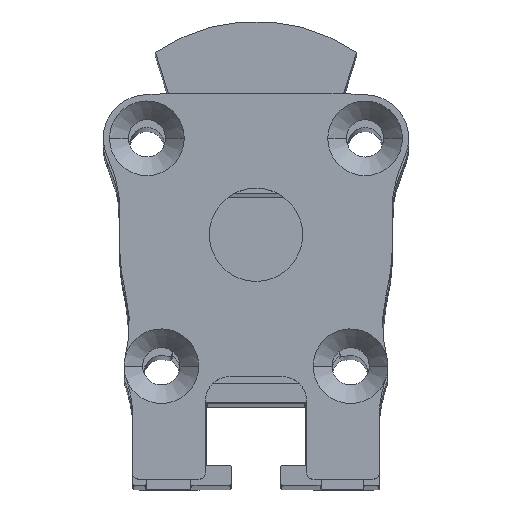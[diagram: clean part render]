
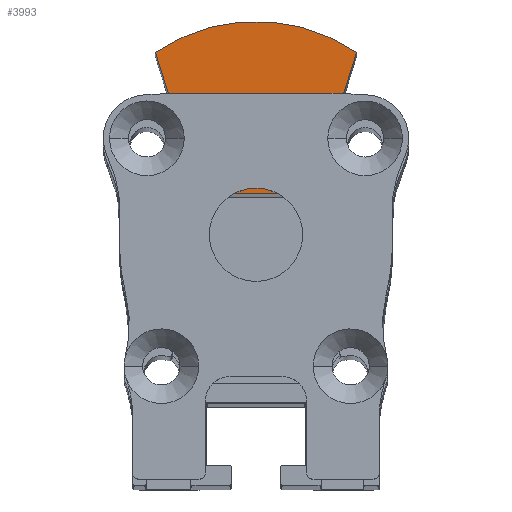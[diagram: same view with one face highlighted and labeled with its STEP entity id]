
A CAD part, top view. The second image highlights one B-rep face of the part: STEP entity #3993.
In plain terms, the highlighted planar face has unit normal (0, 0, 1).
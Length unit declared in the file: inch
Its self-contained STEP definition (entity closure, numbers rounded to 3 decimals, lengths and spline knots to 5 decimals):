
#3993=ADVANCED_FACE('',(#7809),#7810,.T.);
#4001=EDGE_CURVE('',#7813,#7819,#7822,.T.);
#4007=EDGE_CURVE('',#7827,#7819,#7830,.F.);
#4029=EDGE_CURVE('',#7861,#7862,#7863,.F.);
#4035=EDGE_CURVE('',#7869,#7870,#7871,.F.);
#4041=EDGE_CURVE('',#7870,#7861,#7877,.F.);
#4043=EDGE_CURVE('',#7869,#7879,#7880,.F.);
#4047=EDGE_CURVE('',#7813,#7862,#7884,.F.);
#4049=EDGE_CURVE('',#7886,#7887,#7888,.F.);
#4055=EDGE_CURVE('',#7827,#7894,#7895,.F.);
#4059=EDGE_CURVE('',#7894,#7886,#7899,.F.);
#4063=EDGE_CURVE('',#7901,#7887,#7904,.F.);
#4065=EDGE_CURVE('',#7879,#7901,#7906,.F.);
#7809=FACE_OUTER_BOUND('',#17780,.T.);
#7810=PLANE('',#17781);
#7813=VERTEX_POINT('',#17785);
#7819=VERTEX_POINT('',#17795);
#7822=LINE('',#17800,#17801);
#7827=VERTEX_POINT('',#17809);
#7830=LINE('',#17814,#17815);
#7861=VERTEX_POINT('',#17866);
#7862=VERTEX_POINT('',#17867);
#7863=LINE('',#17868,#17869);
#7869=VERTEX_POINT('',#17880);
#7870=VERTEX_POINT('',#17881);
#7871=LINE('',#17882,#17883);
#7877=LINE('',#17894,#17895);
#7879=VERTEX_POINT('',#17898);
#7880=LINE('',#17899,#17900);
#7884=LINE('',#17907,#17908);
#7886=VERTEX_POINT('',#17911);
#7887=VERTEX_POINT('',#17912);
#7888=LINE('',#17913,#17914);
#7894=VERTEX_POINT('',#17925);
#7895=LINE('',#17926,#17927);
#7899=LINE('',#17934,#17935);
#7901=VERTEX_POINT('',#17938);
#7904=LINE('',#17943,#17944);
#7906=CIRCLE('',#17947,0.56299);
#17780=EDGE_LOOP('',(#23489,#23490,#23491,#23492,#23493,#23494,#23495,#23496,#23497,#23498,#23499,#23500));
#17781=AXIS2_PLACEMENT_3D('',#23501,#23502,#23503);
#17785=CARTESIAN_POINT('',(-0.17932,0.15296,-3.53105));
#17795=CARTESIAN_POINT('',(0.17932,0.15296,-3.53105));
#17800=CARTESIAN_POINT('',(0.,0.15296,-3.53105));
#17801=VECTOR('',#23507,1.0);
#17809=CARTESIAN_POINT('',(0.26301,0.4208,-3.53105));
#17814=CARTESIAN_POINT('',(0.19145,0.19179,-3.53105));
#17815=VECTOR('',#23510,1.0);
#17866=CARTESIAN_POINT('',(-0.21005,0.4208,-3.53105));
#17867=CARTESIAN_POINT('',(-0.26301,0.4208,-3.53105));
#17868=CARTESIAN_POINT('',(-0.12298,0.4208,-3.53105));
#17869=VECTOR('',#23523,1.0);
#17880=CARTESIAN_POINT('',(-0.27532,0.46017,-3.53105));
#17881=CARTESIAN_POINT('',(-0.21005,0.46017,-3.53105));
#17882=CARTESIAN_POINT('',(-0.12298,0.46017,-3.53105));
#17883=VECTOR('',#23526,1.0);
#17894=CARTESIAN_POINT('',(-0.21005,0.35333,-3.53105));
#17895=VECTOR('',#23529,1.0);
#17898=CARTESIAN_POINT('',(-0.31832,0.59777,-3.53105));
#17899=CARTESIAN_POINT('',(-0.19145,0.19179,-3.53105));
#17900=VECTOR('',#23530,1.0);
#17907=CARTESIAN_POINT('',(-0.19145,0.19179,-3.53105));
#17908=VECTOR('',#23532,1.0);
#17911=CARTESIAN_POINT('',(0.20856,0.46017,-3.53105));
#17912=CARTESIAN_POINT('',(0.27532,0.46017,-3.53105));
#17913=CARTESIAN_POINT('',(0.12223,0.46017,-3.53105));
#17914=VECTOR('',#23533,1.0);
#17925=CARTESIAN_POINT('',(0.20856,0.4208,-3.53105));
#17926=CARTESIAN_POINT('',(0.12223,0.4208,-3.53105));
#17927=VECTOR('',#23536,1.0);
#17934=CARTESIAN_POINT('',(0.20856,0.35333,-3.53105));
#17935=VECTOR('',#23538,1.0);
#17938=CARTESIAN_POINT('',(0.31832,0.59777,-3.53105));
#17943=CARTESIAN_POINT('',(0.19145,0.19179,-3.53105));
#17944=VECTOR('',#23540,1.0);
#17947=AXIS2_PLACEMENT_3D('',#23541,#23542,#23543);
#23489=ORIENTED_EDGE('',*,*,#4001,.T.);
#23490=ORIENTED_EDGE('',*,*,#4007,.F.);
#23491=ORIENTED_EDGE('',*,*,#4055,.T.);
#23492=ORIENTED_EDGE('',*,*,#4059,.T.);
#23493=ORIENTED_EDGE('',*,*,#4049,.T.);
#23494=ORIENTED_EDGE('',*,*,#4063,.F.);
#23495=ORIENTED_EDGE('',*,*,#4065,.F.);
#23496=ORIENTED_EDGE('',*,*,#4043,.F.);
#23497=ORIENTED_EDGE('',*,*,#4035,.T.);
#23498=ORIENTED_EDGE('',*,*,#4041,.T.);
#23499=ORIENTED_EDGE('',*,*,#4029,.T.);
#23500=ORIENTED_EDGE('',*,*,#4047,.F.);
#23501=CARTESIAN_POINT('',(0.,0.26619,-3.53105));
#23502=DIRECTION('',(0.,0.,1.0));
#23503=DIRECTION('',(1.0,0.0,0.));
#23507=DIRECTION('',(1.0,0.0,0.));
#23510=DIRECTION('',(0.298,0.954,0.));
#23523=DIRECTION('',(1.0,0.0,0.));
#23526=DIRECTION('',(-1.0,0.0,0.));
#23529=DIRECTION('',(-0.0,1.0,0.));
#23530=DIRECTION('',(0.298,-0.954,0.));
#23532=DIRECTION('',(0.298,-0.954,0.));
#23533=DIRECTION('',(-1.0,0.0,0.));
#23536=DIRECTION('',(1.0,0.0,0.));
#23538=DIRECTION('',(-0.0,-1.0,0.));
#23540=DIRECTION('',(0.298,0.954,0.));
#23541=CARTESIAN_POINT('',(0.,0.13341,-3.53105));
#23542=DIRECTION('',(0.,0.,1.0));
#23543=DIRECTION('',(1.0,0.,0.));
